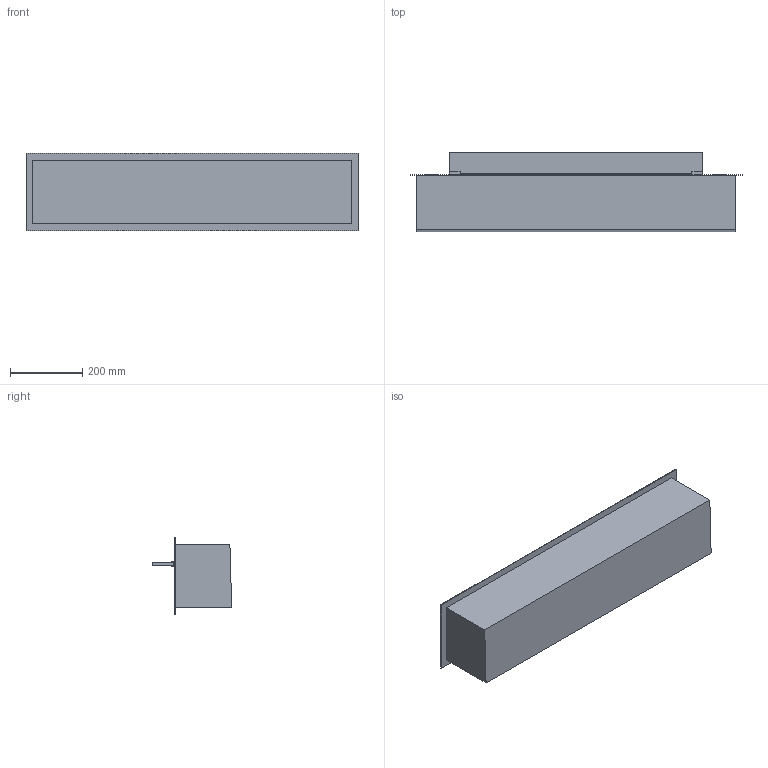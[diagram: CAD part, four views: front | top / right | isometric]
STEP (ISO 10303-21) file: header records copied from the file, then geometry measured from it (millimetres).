
FILE_DESCRIPTION (( 'STEP AP203' ), '1' );
FILE_NAME ('Denver F6 920.STEP', '2024-03-13T09:18:29', ( '' ), ( '' ), 'SwSTEP 2.0', 'SolidWorks 2023', '' );
FILE_SCHEMA (( 'CONFIG_CONTROL_DESIGN' ));
Length unit declared in the file: millimetre
Products named in the file (1): Denver F6 920
Bounding box: 920 x 220 x 215 mm (x, y, z)
Volume: 25115819 mm3; surface area: 1166815.3 mm2
Topology: 8 solids, 8 shells, 68 faces, 156 edges, 104 vertices
Faces by surface type: plane 68
Entity records: 1955 total; most frequent: CARTESIAN_POINT 329, ORIENTED_EDGE 312, DIRECTION 294, EDGE_CURVE 156, LINE 156, VECTOR 156, VERTEX_POINT 104, EDGE_LOOP 74
